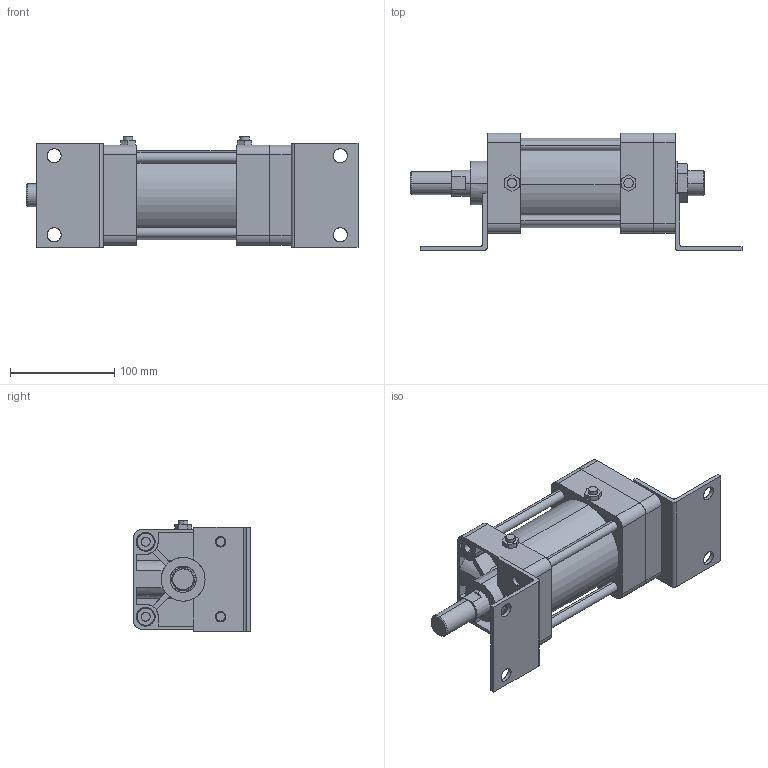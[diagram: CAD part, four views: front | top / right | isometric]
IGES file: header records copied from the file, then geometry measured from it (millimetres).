
Start section: SolidWorks IGES file using analytic representation for surfaces
Global section: file name: C:\Users\Toshiba\Desktop\KGA2-80#-50-L.IGS; native system: SolidWorks 2014; preprocessor: SolidWorks 2014; author: Toshiba; date: 160414.154417; units: millimetre
Bounding box: 319 x 113 x 106.3 mm (x, y, z)
Surface area: 248792.3 mm2 (no closed solid volume)
Topology: 0 solids, 0 shells, 388 faces, 6424 edges, 6420 vertices
Faces by surface type: bspline 204, revolution 184
